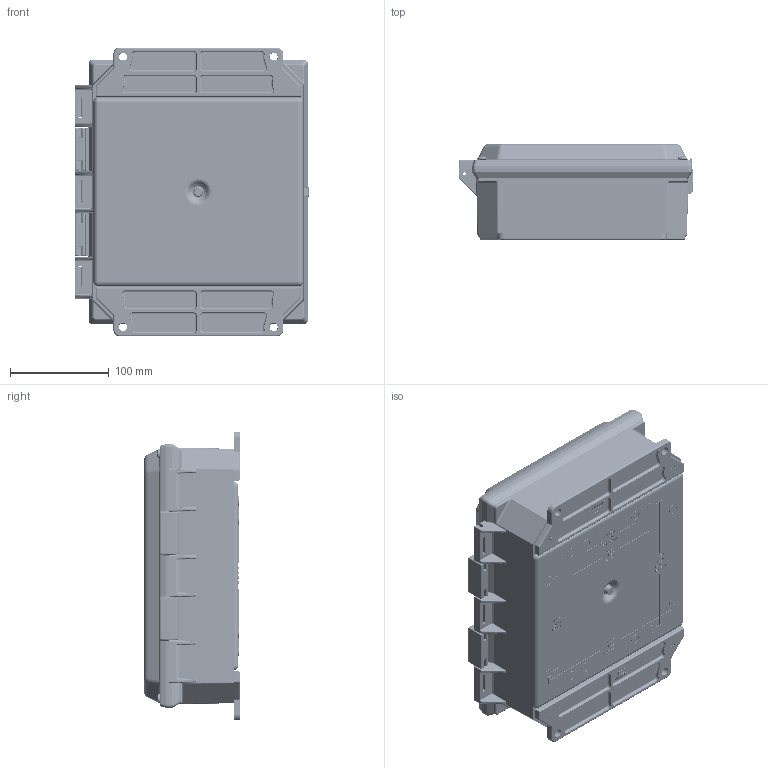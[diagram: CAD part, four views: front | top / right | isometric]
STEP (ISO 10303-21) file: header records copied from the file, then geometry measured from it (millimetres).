
FILE_DESCRIPTION (( 'STEP AP203' ), '1' );
FILE_NAME ('PCJ1082CCF.step', '2015-12-29T19:46:33', ( '' ), ( '' ), 'SwSTEP 2.0', 'SolidWorks 2014', '' );
FILE_SCHEMA (( 'CONFIG_CONTROL_DESIGN' ));
Length unit declared in the file: inch
Products named in the file (18): 70-1032342316_70-1032342316; 2380001; 70-007ORING; WUFP108; CMSO316; 55-103212316; AMP1082CCF; 2317001_part; WP1082B_box; PCJ1082CCF; WU1084CX; 70-60250; 2317001_WP1084C FIP Gasket Profile; WP1082BI12; 2317200; 70-60822PC-1; WGU1084CX; 55-1032516_PreviewCfg
Assembly tree (38 placements, depth 5):
  PCJ1082CCF
    AMP1082CCF
      WP1082BI12
        WP1082B_box
        70-60250  x12
      70-60822PC-1
      55-1032516_PreviewCfg  x4
      WUFP108  x2
        2380001
      55-103212316  x4
      WGU1084CX
        WU1084CX
          2317001_part
        2317200
          2317001_WP1084C FIP Gasket Profile
      CMSO316  x4
        70-1032342316_70-1032342316
        70-007ORING
Bounding box: 237.37 x 96.82 x 292.09 mm (x, y, z)
Volume: 1285987.3 mm3; surface area: 738212 mm2
Topology: 35 solids, 35 shells, 6551 faces, 16976 edges, 10807 vertices
Faces by surface type: plane 2608, cylinder 1545, bspline 1406, cone 674, torus 187, sphere 131
Entity records: 204341 total; most frequent: CARTESIAN_POINT 94036, ORIENTED_EDGE 24746, DIRECTION 18674, EDGE_CURVE 12373, VERTEX_POINT 7859, VECTOR 7294, LINE 7294, AXIS2_PLACEMENT_3D 5690
